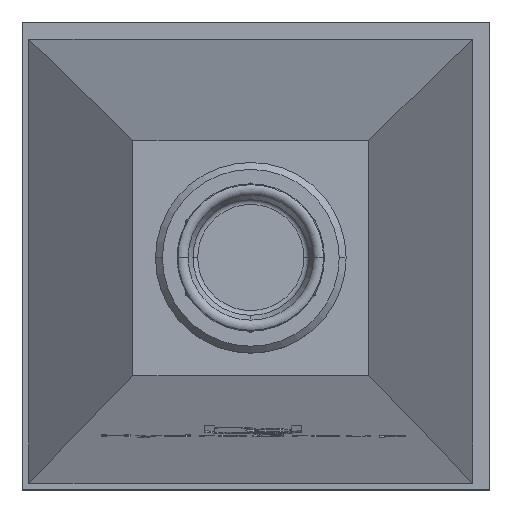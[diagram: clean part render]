
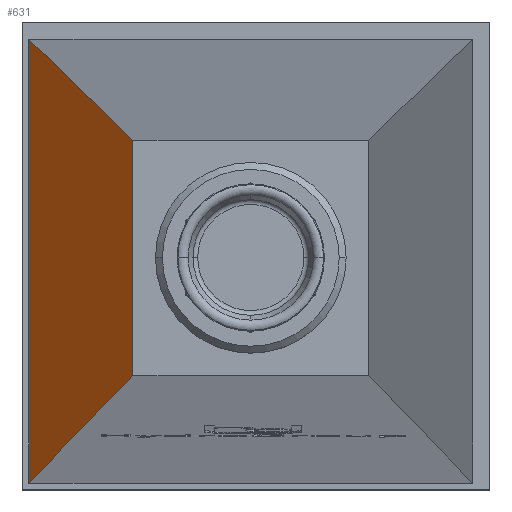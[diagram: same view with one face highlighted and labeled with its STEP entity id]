
A CAD part, top view. The second image highlights one B-rep face of the part: STEP entity #631.
In plain terms, the highlighted planar face has unit normal (-0.999, 0, 0.055).
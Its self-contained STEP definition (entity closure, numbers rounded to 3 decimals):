
#631=ADVANCED_FACE('',(#1308),#1309,.F.);
#1308=FACE_OUTER_BOUND('',#2073,.T.);
#1309=PLANE('',#2074);
#2073=EDGE_LOOP('',(#3997,#3998,#3999,#4000));
#2074=AXIS2_PLACEMENT_3D('',#4001,#4002,#4003);
#3997=ORIENTED_EDGE('',*,*,#5076,.F.);
#3998=ORIENTED_EDGE('',*,*,#4834,.F.);
#3999=ORIENTED_EDGE('',*,*,#5099,.F.);
#4000=ORIENTED_EDGE('',*,*,#5110,.T.);
#4001=CARTESIAN_POINT('',(112.046,165.394,1087.866));
#4002=DIRECTION('',(0.998,0.,-0.055));
#4003=DIRECTION('',(0.,-1.0,0.));
#4834=EDGE_CURVE('',#5820,#5816,#5822,.T.);
#5076=EDGE_CURVE('',#5816,#6140,#6141,.F.);
#5099=EDGE_CURVE('',#6171,#5820,#6173,.T.);
#5110=EDGE_CURVE('',#6171,#6140,#6186,.T.);
#5816=VERTEX_POINT('',#7423);
#5820=VERTEX_POINT('',#7429);
#5822=LINE('',#7432,#7433);
#6140=VERTEX_POINT('',#8010);
#6141=LINE('',#8011,#8012);
#6171=VERTEX_POINT('',#8056);
#6173=LINE('',#8059,#8060);
#6186=LINE('',#8078,#8079);
#7423=CARTESIAN_POINT('',(52.037,102.389,5.7));
#7429=CARTESIAN_POINT('',(112.037,162.389,1087.7));
#7432=CARTESIAN_POINT('',(112.254,162.606,1091.614));
#7433=VECTOR('',#8779,1.);
#8010=CARTESIAN_POINT('',(52.037,358.398,5.7));
#8011=CARTESIAN_POINT('',(52.037,197.894,5.7));
#8012=VECTOR('',#8951,1.0);
#8056=CARTESIAN_POINT('',(112.037,298.398,1087.7));
#8059=CARTESIAN_POINT('',(112.037,197.894,1087.7));
#8060=VECTOR('',#8967,1.0);
#8078=CARTESIAN_POINT('',(112.254,298.181,1091.614));
#8079=VECTOR('',#8973,1.);
#8779=DIRECTION('',(-0.055,-0.055,-0.997));
#8951=DIRECTION('',(0.,-1.0,0.));
#8967=DIRECTION('',(0.,-1.0,0.));
#8973=DIRECTION('',(-0.055,0.055,-0.997));
